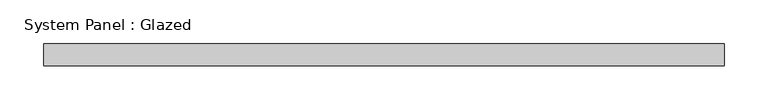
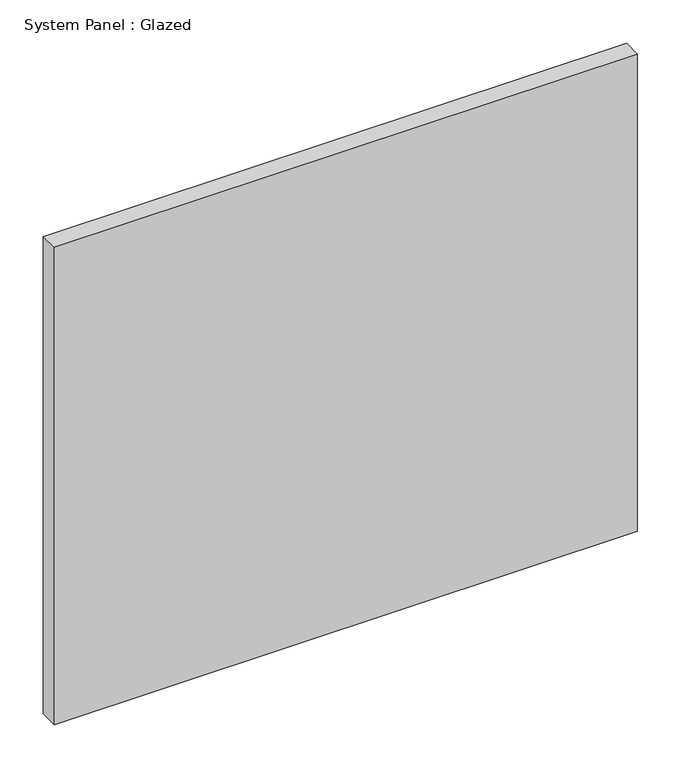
"""IFC4 building model written with IfcOpenShell, lengths in millimetres: plate geometry, System Panel : Glazed."""

from ifc_helpers import new_model, si_unit, origin, origin_with_axes, place, context, project, spatial, polyline, outline, extrude, source, transform, mapped, element, save


def system_panel_glazed_95cdb087(model_context):
    return source(origin(), model_context, "Body", "SweptSolid", [
        extrude(outline(polyline([(387.5, 24.5), (-387.5, 24.5), (-387.5, 49.5), (387.5, 49.5), (387.5, 24.5)])), origin_with_axes(), (0.0, 0.0, 1.0), 670.4891274),
    ])


if __name__ == "__main__":
    model = new_model("IFC4")
    model_context = context("Model", 3, world=origin())
    ifc_project = project(units=[si_unit("LENGTHUNIT", "METRE", prefix="MILLI")], contexts=[model_context])
    site = spatial("IfcSite", under=ifc_project)
    building = spatial("IfcBuilding", under=site)
    placement = place(None, origin())
    system_panel_glazed_shape = system_panel_glazed_95cdb087(model_context)
    element("IfcPlate", 1, ObjectType="System Panel : Glazed", at=placement, inside=building, context=model_context, shape_type="MappedRepresentation", body=[
        mapped(system_panel_glazed_shape, transform((0.0, 0.0, 0.0), x_axis=(1.0, 0.0, 0.0), y_axis=(0.0, 1.0, 0.0), z_axis=(0.0, 0.0, 1.0))),
    ])
    save(model, "model.ifc")
